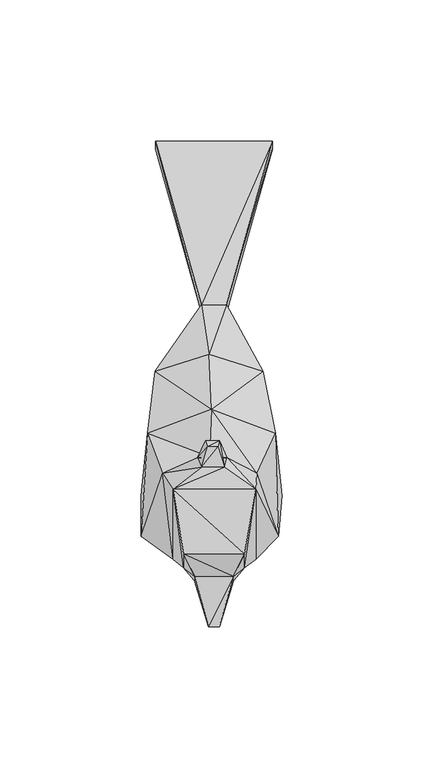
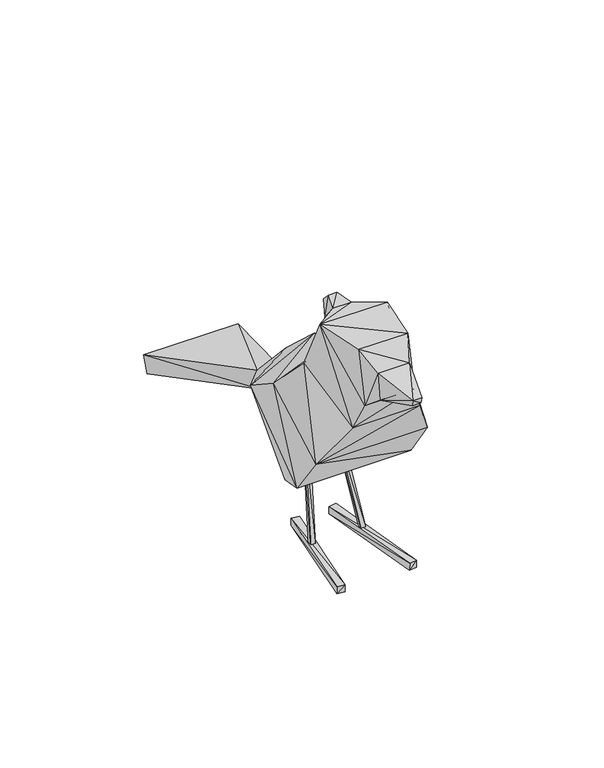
"""IFC4 building model written with IfcOpenShell, lengths in millimetres: geographic element geometry, TempEnscape AssetDefinition - Decorative Goods 012 Bird : TempEnscape AssetDefinition - Decorative Goods 012 Bird."""

from ifc_helpers import new_model, si_unit, origin, place, context, project, spatial, faceted_brep, source, transform, mapped, element, save


def geographic_element_f5c7f4e8(model_context):
    return source(origin(), model_context, "Body", "Brep", [
        faceted_brep([(14.9072148, -3.9206087, 111.1299619), (10.8370883, -31.6685438, 89.0374705), (14.9072148, -28.697554, 78.3277825), (10.8370874, -26.6304165, 111.9889617), (6.8817018, -34.7241163, 104.5037508), (6.8817027, -36.2616777, 92.7947313), (-6.8817097, -36.2616703, 92.7947313), (-10.8370939, -31.6685401, 89.0374705), (-14.5465862, -28.6975484, 78.3277825), (-14.5465862, -3.9205998, 111.1299619), (-10.8370939, -26.6304128, 111.9889617), (-6.8817097, -34.7241163, 104.5037508), (-1.8931198, -52.6493043, 100.9750664), (-1.8931198, -52.009277, 98.2030332), (1.8931055, -52.0092845, 98.2030332), (1.8931048, -52.6493043, 100.9750664), (-18.2544552, 1.8657432, 91.2109464), (-25.9407312, -20.5678809, 60.4044944), (22.8949375, -20.5678865, 60.4044981), (-23.5898271, 15.9443263, 74.9099553), (-25.9407349, -6.0895323, 40.5072123), (24.1047461, -6.0895351, 40.507216), (15.2086439, 1.8657343, 91.210939), (21.7538346, 15.9443226, 74.9099553), (17.3541661, 38.0091779, 59.61233), (17.3541661, 11.850642, 31.8719745), (-20.8985619, 11.8506467, 31.8719745), (-20.8985601, 38.0091816, 59.61233), (-4.419113, 61.6240092, 46.5124883), (-4.4191116, 58.7768517, 39.6224782), (4.41912, 61.623998, 46.5124883), (4.419121, 58.776848, 39.6224782), (-20.7567569, 119.6231619, 24.2182892), (-20.7567457, 116.7760044, 17.328281), (20.7567643, 116.775997, 17.328281), (20.7567587, 119.6231544, 24.2182855), (-1.7721957, 44.0452322, 66.670537), (-0.9179934, 24.4531054, 84.9984586), (-1.5229027, 7.6076249, 92.6829427), (-4.4088364, 3.891547, 110.3743091), (-5.8786455, 7.4031483, 104.4813395), (3.6947883, 3.8915412, 110.3742942), (1.447338, 11.1644221, 111.2372801), (-2.2887855, 11.1644305, 111.2372801), (-2.9664321, 13.4383859, 108.5046753), (4.6917819, 7.4031483, 104.4813395), (1.9069953, 13.438385, 108.5046753)], [[[0, 1, 2]], [[1, 0, 3]], [[4, 1, 3]], [[1, 4, 5]], [[6, 1, 5]], [[1, 6, 7]], [[1, 8, 2]], [[8, 1, 7]], [[9, 3, 0]], [[3, 9, 10]], [[10, 4, 3]], [[9, 7, 10]], [[4, 10, 11]], [[7, 11, 10]], [[7, 9, 8]], [[11, 7, 6]], [[12, 6, 13]], [[6, 12, 11]], [[5, 13, 6]], [[12, 4, 11]], [[12, 14, 15]], [[14, 12, 13]], [[4, 12, 15]], [[13, 5, 14]], [[5, 15, 14]], [[15, 5, 4]], [[16, 8, 9]], [[8, 16, 17]], [[17, 2, 8]], [[2, 17, 18]], [[19, 17, 16]], [[17, 19, 20]], [[21, 17, 20]], [[17, 21, 18]], [[18, 0, 2]], [[0, 18, 22]], [[18, 23, 22]], [[23, 18, 21]], [[24, 21, 25]], [[21, 24, 23]], [[21, 26, 25]], [[26, 21, 20]], [[27, 20, 19]], [[20, 27, 26]], [[28, 26, 27]], [[26, 28, 29]], [[29, 25, 26]], [[25, 30, 24]], [[30, 25, 31]], [[25, 29, 31]], [[32, 29, 28]], [[29, 32, 33]], [[33, 31, 29]], [[34, 30, 31]], [[31, 33, 34]], [[35, 33, 32]], [[33, 35, 34]], [[28, 35, 32]], [[30, 34, 35]], [[35, 28, 30]], [[28, 27, 36]], [[28, 36, 30]], [[30, 36, 24]], [[37, 24, 36]], [[27, 37, 36]], [[19, 38, 37]], [[24, 37, 23]], [[37, 27, 19]], [[37, 22, 23]], [[22, 37, 38]], [[38, 19, 16]], [[39, 16, 9]], [[16, 39, 40]], [[40, 38, 16]], [[41, 9, 0]], [[9, 41, 39]], [[42, 39, 41]], [[39, 42, 43]], [[43, 40, 39]], [[44, 45, 40]], [[40, 43, 44]], [[45, 38, 40]], [[46, 43, 42]], [[43, 46, 44]], [[41, 46, 42]], [[0, 45, 41]], [[46, 41, 45]], [[45, 0, 22]], [[45, 22, 38]], [[45, 44, 46]]]),
        faceted_brep([(4.5044571, 17.453948, 40.719714), (8.5902344, 4.4281879, 1.5826519), (4.3836525, 15.5357867, 41.217275), (8.5902344, 6.3463491, 1.5826519), (10.5195092, 4.4281874, 2.0510694), (10.5195092, 6.3463491, 2.0510694), (6.3129272, 15.5357877, 41.6856855), (6.4337305, 17.453948, 41.1881283)], [[[0, 1, 2]], [[1, 0, 3]], [[4, 2, 1]], [[1, 5, 4]], [[5, 1, 3]], [[2, 4, 6]], [[6, 0, 2]], [[7, 3, 0]], [[0, 6, 7]], [[3, 7, 5]], [[6, 5, 7]], [[5, 6, 4]]]),
        faceted_brep([(-9.5374221, 17.453948, 40.7197103), (-13.7005365, 4.4281874, 1.5826571), (-9.658223, 15.5357867, 41.217275), (-13.7005365, 6.3463491, 1.5826571), (-11.7712608, 4.4281879, 2.0510694), (-11.7712608, 6.3463491, 2.0510694), (-7.7289497, 15.5357867, 41.6856855), (-7.6081455, 17.4539462, 41.1881283)], [[[0, 1, 2]], [[1, 0, 3]], [[4, 2, 1]], [[1, 5, 4]], [[5, 1, 3]], [[2, 4, 6]], [[6, 0, 2]], [[7, 3, 0]], [[0, 6, 7]], [[3, 7, 5]], [[6, 5, 7]], [[5, 6, 4]]]),
        faceted_brep([(4.823131, 22.762781, 0.4279486), (12.7856806, -24.6093627, 3.4064646), (4.826651, 22.7418356, 3.71653), (12.7821602, -24.5884173, 0.1178832), (16.0288401, -24.0642373, 3.4064646), (8.0698095, 23.286961, 3.71653), (8.0662891, 23.3079065, 0.4279486), (16.0253197, -24.0432918, 0.1178832)], [[[0, 1, 2]], [[1, 0, 3]], [[4, 2, 1]], [[3, 4, 1]], [[2, 4, 5]], [[5, 0, 2]], [[6, 3, 0]], [[0, 5, 6]], [[3, 6, 7]], [[4, 3, 7]], [[7, 5, 4]], [[5, 7, 6]]]),
        faceted_brep([(-11.5166837, 23.3378857, 0.4279434), (-18.8318565, -24.1385344, 3.4064699), (-11.5199201, 23.3168919, 3.71653), (-18.828623, -24.1175406, 0.1178832), (-15.5815613, -24.6393383, 3.4064699), (-8.2696229, 22.8160881, 3.71653), (-8.2663903, 22.8370801, 0.4279434), (-15.5783249, -24.6183462, 0.1178832)], [[[0, 1, 2]], [[1, 0, 3]], [[4, 2, 1]], [[3, 4, 1]], [[2, 4, 5]], [[5, 0, 2]], [[6, 3, 0]], [[0, 5, 6]], [[3, 6, 7]], [[4, 3, 7]], [[7, 5, 4]], [[5, 7, 6]]]),
    ])


if __name__ == "__main__":
    model = new_model("IFC4")
    model_context = context("Model", 3, world=origin())
    ifc_project = project(units=[si_unit("LENGTHUNIT", "METRE", prefix="MILLI")], contexts=[model_context])
    site = spatial("IfcSite", under=ifc_project)
    building = spatial("IfcBuilding", under=site)
    placement = place(None, origin())
    geographic_element_shape = geographic_element_f5c7f4e8(model_context)
    element("IfcGeographicElement", 1, ObjectType="TempEnscape AssetDefinition - Decorative Goods 012 Bird : TempEnscape AssetDefinition - Decorative Goods 012 Bird", at=placement, inside=building, context=model_context, shape_type="MappedRepresentation", body=[
        mapped(geographic_element_shape, transform((0.0, 0.0, 0.0), x_axis=(1.0, 0.0, 0.0), y_axis=(0.0, 1.0, 0.0), z_axis=(0.0, 0.0, 1.0))),
    ])
    save(model, "model.ifc")
